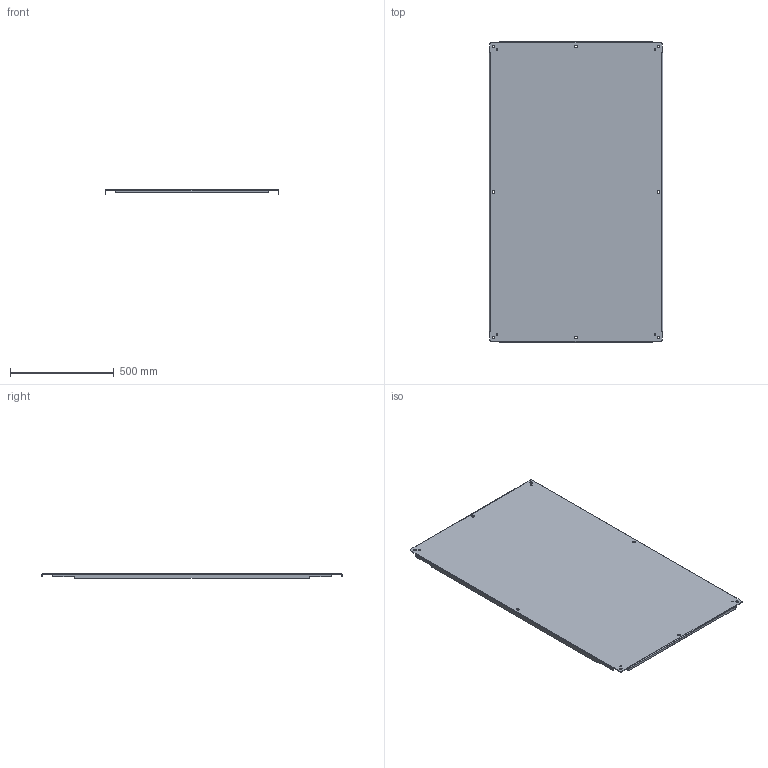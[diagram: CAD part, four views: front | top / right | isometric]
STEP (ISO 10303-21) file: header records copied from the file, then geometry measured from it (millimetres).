
FILE_DESCRIPTION((''),'2;1');
FILE_NAME('MODEL-092_ASM','2023-10-12T08:11:21',('Tony.Gonzales'),('SAGINAW CONTROL & ENGINEERING'),'CREO PARAMETRIC BY PTC INC, 2021284','CREO PARAMETRIC BY PTC INC, 2021284','');
FILE_SCHEMA(('AUTOMOTIVE_DESIGN { 1 0 10303 214 1 1 1 1 }'));
Length unit declared in the file: inch
Products named in the file (2): MODEL-092-SUBPNL; MODEL-092_ASM
Assembly tree (1 placements, depth 2):
  MODEL-092_ASM
    MODEL-092-SUBPNL
Bounding box: 836.61 x 1446.21 x 22.23 mm (x, y, z)
Volume: 4028845.6 mm3; surface area: 2553881 mm2
Topology: 1 solids, 1 shells, 114 faces, 304 edges, 192 vertices
Faces by surface type: cylinder 48, plane 42, bspline 24
Entity records: 6469 total; most frequent: CARTESIAN_POINT 1281, ORIENTED_EDGE 608, DIRECTION 586, PRESENTATION_STYLE_ASSIGNMENT 419, STYLED_ITEM 419, CURVE_STYLE 304, EDGE_CURVE 304, AXIS2_PLACEMENT_3D 205
